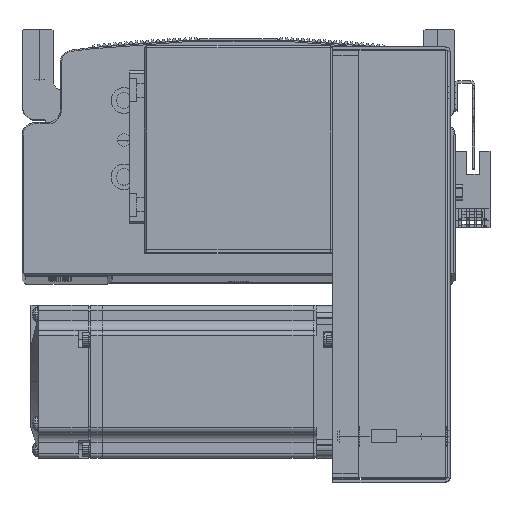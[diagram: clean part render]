
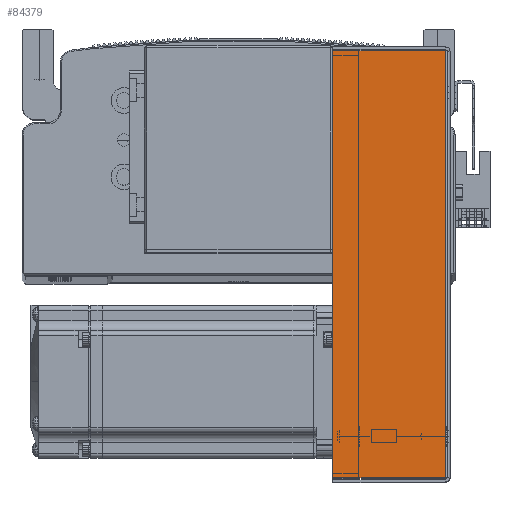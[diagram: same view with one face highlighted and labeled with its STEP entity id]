
A CAD part, top view. The second image highlights one B-rep face of the part: STEP entity #84379.
In plain terms, the highlighted planar face has unit normal (0, 0, 1) as drawn and (0, 0, -1) by its records, which use the part's own axes.
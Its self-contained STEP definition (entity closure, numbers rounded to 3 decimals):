
#2340 = FACE_OUTER_BOUND ( 'NONE', #54262, .T. ) ;
#10841 = CARTESIAN_POINT ( 'NONE',  ( 0., 0., -40.5 ) ) ;
#10857 = DIRECTION ( 'NONE',  ( 0., 0., 1. ) ) ;
#10900 = PLANE ( 'NONE',  #16707 ) ;
#10903 = DIRECTION ( 'NONE',  ( 0., -1., 0. ) ) ;
#16707 = AXIS2_PLACEMENT_3D ( 'NONE', #10841, #10857, #10903 ) ;
#16912 = LINE ( 'NONE', #66986, #16947 ) ;
#16947 = VECTOR ( 'NONE', #67035, 1000. ) ;
#17003 = LINE ( 'NONE', #67144, #17058 ) ;
#17005 = VECTOR ( 'NONE', #67076, 1000. ) ;
#17023 = LINE ( 'NONE', #67075, #17061 ) ;
#17046 = LINE ( 'NONE', #67062, #17005 ) ;
#17058 = VECTOR ( 'NONE', #67137, 1000. ) ;
#17061 = VECTOR ( 'NONE', #67068, 1000. ) ;
#54262 = EDGE_LOOP ( 'NONE', ( #72210, #72889, #72201, #72919 ) ) ;
#59446 = EDGE_CURVE ( 'NONE', #60745, #60891, #16912, .T. ) ;
#59514 = EDGE_CURVE ( 'NONE', #60909, #61207, #17023, .T. ) ;
#59519 = EDGE_CURVE ( 'NONE', #60891, #61207, #17046, .T. ) ;
#59571 = EDGE_CURVE ( 'NONE', #60745, #60909, #17003, .T. ) ;
#60745 = VERTEX_POINT ( 'NONE', #78645 ) ;
#60891 = VERTEX_POINT ( 'NONE', #78804 ) ;
#60909 = VERTEX_POINT ( 'NONE', #78809 ) ;
#61207 = VERTEX_POINT ( 'NONE', #79141 ) ;
#66986 = CARTESIAN_POINT ( 'NONE',  ( -83.793, 0., -40.5 ) ) ;
#67035 = DIRECTION ( 'NONE',  ( 0., 1., 0. ) ) ;
#67062 = CARTESIAN_POINT ( 'NONE',  ( 84.5, 45., -40.5 ) ) ;
#67068 = DIRECTION ( 'NONE',  ( 0., 1., 0. ) ) ;
#67075 = CARTESIAN_POINT ( 'NONE',  ( 83.793, 0., -40.5 ) ) ;
#67076 = DIRECTION ( 'NONE',  ( 1., 0., 0. ) ) ;
#67137 = DIRECTION ( 'NONE',  ( 1., 0., 0. ) ) ;
#67144 = CARTESIAN_POINT ( 'NONE',  ( 0., 0.737, -40.5 ) ) ;
#72201 = ORIENTED_EDGE ( 'NONE', *, *, #59519, .T. ) ;
#72210 = ORIENTED_EDGE ( 'NONE', *, *, #59571, .F. ) ;
#72889 = ORIENTED_EDGE ( 'NONE', *, *, #59446, .T. ) ;
#72919 = ORIENTED_EDGE ( 'NONE', *, *, #59514, .F. ) ;
#78645 = CARTESIAN_POINT ( 'NONE',  ( -83.793, 0.737, -40.5 ) ) ;
#78804 = CARTESIAN_POINT ( 'NONE',  ( -83.793, 45., -40.5 ) ) ;
#78809 = CARTESIAN_POINT ( 'NONE',  ( 83.793, 0.737, -40.5 ) ) ;
#79141 = CARTESIAN_POINT ( 'NONE',  ( 83.793, 45., -40.5 ) ) ;
#84379 = ADVANCED_FACE ( 'NONE', ( #2340 ), #10900, .F. ) ;
